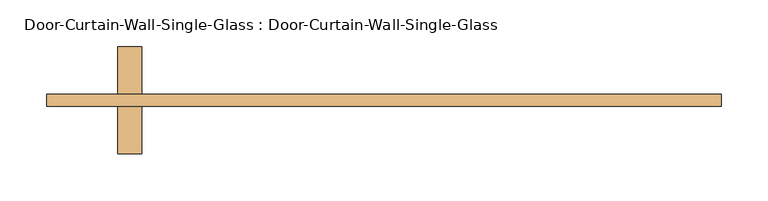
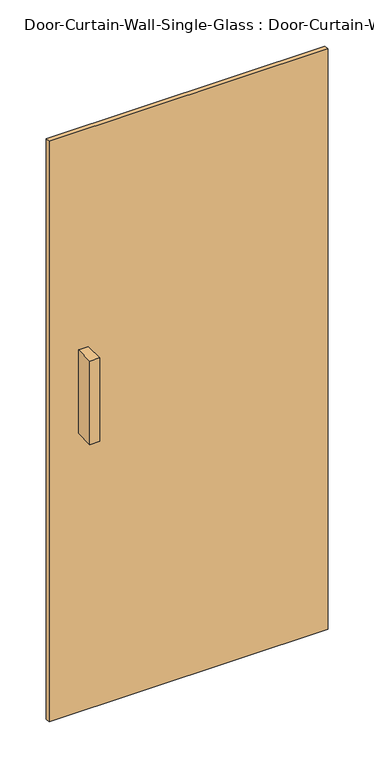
"""IFC4 building model written with IfcOpenShell, lengths in millimetres: door geometry, Door-Curtain-Wall-Single-Glass : Door-Curtain-Wall-Single-Glass."""

from ifc_helpers import new_model, si_unit, frame, origin, origin_with_axes, place, context, project, spatial, polyline, outline, extrude, source, transform, mapped, element, save


def door_curtain_wall_single_glass_door_curtain_wall_single_83725fa1(model_context):
    return source(origin(), model_context, "Body", "SweptSolid", [
        extrude(outline(polyline([(360.899528, 50.8), (360.899528, 38.1), (-360.899528, 38.1), (-360.899528, 50.8), (360.899528, 50.8)])), origin_with_axes(), (0.0, 0.0, 1.0), 1586.8795905),
        extrude(outline(polyline([(-259.299528, -12.7), (-284.699528, -12.7), (-284.699528, 38.1), (-259.299528, 38.1), (-259.299528, -12.7)])), frame((0.0, 0.0, 762.0), z_axis=(0.0, 0.0, 1.0), x_axis=(1.0, 0.0, 0.0)), (0.0, 0.0, 1.0), 228.6),
        extrude(outline(polyline([(-284.699528, 101.6), (-259.299528, 101.6), (-259.299528, 50.8), (-284.699528, 50.8), (-284.699528, 101.6)])), frame((0.0, 0.0, 762.0), z_axis=(0.0, 0.0, 1.0), x_axis=(1.0, 0.0, 0.0)), (0.0, 0.0, 1.0), 228.6),
    ])


if __name__ == "__main__":
    model = new_model("IFC4")
    model_context = context("Model", 3, world=origin())
    ifc_project = project(units=[si_unit("LENGTHUNIT", "METRE", prefix="MILLI")], contexts=[model_context])
    site = spatial("IfcSite", under=ifc_project)
    building = spatial("IfcBuilding", under=site)
    placement = place(None, origin())
    door_curtain_wall_single_glass_door_curtain_wall_single_shape = door_curtain_wall_single_glass_door_curtain_wall_single_83725fa1(model_context)
    element("IfcDoor", 1, ObjectType="Door-Curtain-Wall-Single-Glass : Door-Curtain-Wall-Single-Glass", at=placement, inside=building, context=model_context, shape_type="MappedRepresentation", body=[
        mapped(door_curtain_wall_single_glass_door_curtain_wall_single_shape, transform((0.0, 0.0, 0.0), x_axis=(1.0, 0.0, 0.0), y_axis=(0.0, 1.0, 0.0), z_axis=(0.0, 0.0, 1.0))),
    ])
    save(model, "model.ifc")
